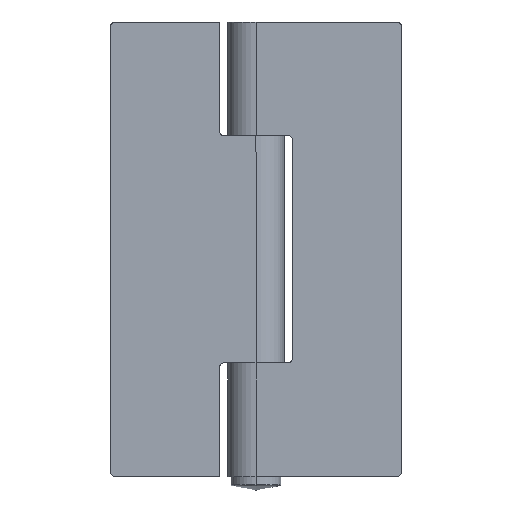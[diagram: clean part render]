
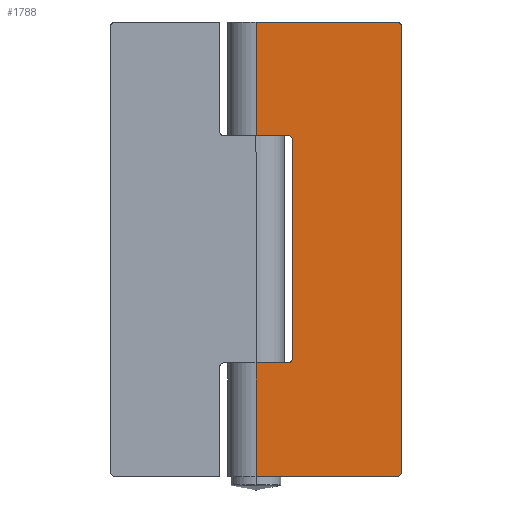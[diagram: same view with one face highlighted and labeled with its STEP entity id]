
A CAD part, left-side view. The second image highlights one B-rep face of the part: STEP entity #1788.
In plain terms, the highlighted planar face has unit normal (-1, 0, 0).
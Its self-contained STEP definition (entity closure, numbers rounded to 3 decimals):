
#51 = DIRECTION ( 'NONE',  ( -1., 0., 0. ) ) ;
#60 = EDGE_CURVE ( 'NONE', #1694, #1356, #1512, .T. ) ;
#65 = VECTOR ( 'NONE', #594, 1000. ) ;
#78 = DIRECTION ( 'NONE',  ( 0., -1., 0. ) ) ;
#81 = CARTESIAN_POINT ( 'NONE',  ( -18.563, -5.479, 25.5 ) ) ;
#85 = EDGE_CURVE ( 'NONE', #2138, #135, #1182, .T. ) ;
#119 = DIRECTION ( 'NONE',  ( 0., 1., 0. ) ) ;
#135 = VERTEX_POINT ( 'NONE', #215 ) ;
#162 = DIRECTION ( 'NONE',  ( 1., 0., 0. ) ) ;
#193 = CARTESIAN_POINT ( 'NONE',  ( -18.563, 10.021, 62.5 ) ) ;
#215 = CARTESIAN_POINT ( 'NONE',  ( -18.563, -5.979, 25.5 ) ) ;
#222 = DIRECTION ( 'NONE',  ( 0., 1., 0. ) ) ;
#237 = CARTESIAN_POINT ( 'NONE',  ( -18.563, -5.479, 25. ) ) ;
#258 = DIRECTION ( 'NONE',  ( 0., 1., 0. ) ) ;
#266 = CARTESIAN_POINT ( 'NONE',  ( -18.563, 10.021, 25. ) ) ;
#299 = ORIENTED_EDGE ( 'NONE', *, *, #2264, .T. ) ;
#307 = DIRECTION ( 'NONE',  ( 1., 0., 0. ) ) ;
#388 = LINE ( 'NONE', #2198, #1769 ) ;
#408 = ORIENTED_EDGE ( 'NONE', *, *, #923, .T. ) ;
#422 = ORIENTED_EDGE ( 'NONE', *, *, #953, .F. ) ;
#440 = CARTESIAN_POINT ( 'NONE',  ( -18.563, 6.521, 62. ) ) ;
#442 = EDGE_CURVE ( 'NONE', #493, #2233, #388, .T. ) ;
#482 = VERTEX_POINT ( 'NONE', #1852 ) ;
#493 = VERTEX_POINT ( 'NONE', #1002 ) ;
#495 = CIRCLE ( 'NONE', #2065, 0.5 ) ;
#497 = VECTOR ( 'NONE', #1313, 1000. ) ;
#576 = EDGE_CURVE ( 'NONE', #2138, #1105, #495, .T. ) ;
#594 = DIRECTION ( 'NONE',  ( 0., 0., -1. ) ) ;
#595 = CARTESIAN_POINT ( 'NONE',  ( -18.563, -5.979, 75. ) ) ;
#600 = LINE ( 'NONE', #1877, #1658 ) ;
#601 = CARTESIAN_POINT ( 'NONE',  ( -18.563, 6.021, 38. ) ) ;
#640 = CARTESIAN_POINT ( 'NONE',  ( -18.563, 10.021, 25. ) ) ;
#683 = CIRCLE ( 'NONE', #1799, 0.5 ) ;
#686 = VECTOR ( 'NONE', #1045, 1000. ) ;
#691 = EDGE_CURVE ( 'NONE', #1694, #482, #683, .T. ) ;
#746 = ORIENTED_EDGE ( 'NONE', *, *, #691, .T. ) ;
#770 = VERTEX_POINT ( 'NONE', #1048 ) ;
#778 = CARTESIAN_POINT ( 'NONE',  ( -18.563, 6.021, 62. ) ) ;
#813 = DIRECTION ( 'NONE',  ( 0., -1., 0. ) ) ;
#832 = DIRECTION ( 'NONE',  ( 0., 1., 0. ) ) ;
#895 = ORIENTED_EDGE ( 'NONE', *, *, #85, .F. ) ;
#923 = EDGE_CURVE ( 'NONE', #1527, #2266, #1830, .T. ) ;
#943 = FACE_OUTER_BOUND ( 'NONE', #1114, .T. ) ;
#953 = EDGE_CURVE ( 'NONE', #770, #482, #600, .T. ) ;
#1002 = CARTESIAN_POINT ( 'NONE',  ( -18.563, 6.521, 62.5 ) ) ;
#1019 = DIRECTION ( 'NONE',  ( -1., 0., 0. ) ) ;
#1045 = DIRECTION ( 'NONE',  ( 0., 0., -1. ) ) ;
#1048 = CARTESIAN_POINT ( 'NONE',  ( -18.563, 10.021, 37.5 ) ) ;
#1105 = VERTEX_POINT ( 'NONE', #1638 ) ;
#1114 = EDGE_LOOP ( 'NONE', ( #408, #1292, #895, #1703, #1914, #299, #1652, #1634, #2052, #746, #422, #1187 ) ) ;
#1168 = CARTESIAN_POINT ( 'NONE',  ( -18.563, 6.021, 37.5 ) ) ;
#1182 = LINE ( 'NONE', #595, #686 ) ;
#1185 = CARTESIAN_POINT ( 'NONE',  ( -18.563, 6.521, 38. ) ) ;
#1187 = ORIENTED_EDGE ( 'NONE', *, *, #1282, .T. ) ;
#1244 = LINE ( 'NONE', #1441, #1713 ) ;
#1282 = EDGE_CURVE ( 'NONE', #770, #1527, #2060, .T. ) ;
#1292 = ORIENTED_EDGE ( 'NONE', *, *, #1484, .T. ) ;
#1313 = DIRECTION ( 'NONE',  ( 0., 0., 1. ) ) ;
#1323 = CARTESIAN_POINT ( 'NONE',  ( -18.563, -5.979, 74.5 ) ) ;
#1329 = EDGE_CURVE ( 'NONE', #1388, #1105, #1244, .T. ) ;
#1347 = DIRECTION ( 'NONE',  ( 0., 1., 0. ) ) ;
#1349 = VECTOR ( 'NONE', #1590, 1000. ) ;
#1356 = VERTEX_POINT ( 'NONE', #778 ) ;
#1388 = VERTEX_POINT ( 'NONE', #1428 ) ;
#1428 = CARTESIAN_POINT ( 'NONE',  ( -18.563, 10.021, 75. ) ) ;
#1441 = CARTESIAN_POINT ( 'NONE',  ( -18.563, 10.021, 75. ) ) ;
#1466 = CARTESIAN_POINT ( 'NONE',  ( -18.563, -5.479, 74.5 ) ) ;
#1484 = EDGE_CURVE ( 'NONE', #2266, #135, #1749, .T. ) ;
#1512 = LINE ( 'NONE', #1168, #497 ) ;
#1527 = VERTEX_POINT ( 'NONE', #640 ) ;
#1549 = DIRECTION ( 'NONE',  ( 1., 0., 0. ) ) ;
#1590 = DIRECTION ( 'NONE',  ( 0., 0., -1. ) ) ;
#1600 = DIRECTION ( 'NONE',  ( 0., -1., 0. ) ) ;
#1634 = ORIENTED_EDGE ( 'NONE', *, *, #1868, .T. ) ;
#1638 = CARTESIAN_POINT ( 'NONE',  ( -18.563, -5.479, 75. ) ) ;
#1652 = ORIENTED_EDGE ( 'NONE', *, *, #442, .F. ) ;
#1658 = VECTOR ( 'NONE', #78, 1000. ) ;
#1679 = AXIS2_PLACEMENT_3D ( 'NONE', #81, #1019, #119 ) ;
#1694 = VERTEX_POINT ( 'NONE', #601 ) ;
#1703 = ORIENTED_EDGE ( 'NONE', *, *, #576, .T. ) ;
#1713 = VECTOR ( 'NONE', #1600, 1000. ) ;
#1749 = CIRCLE ( 'NONE', #1679, 0.5 ) ;
#1762 = CARTESIAN_POINT ( 'NONE',  ( -18.563, 10.021, 75. ) ) ;
#1769 = VECTOR ( 'NONE', #258, 1000. ) ;
#1788 = ADVANCED_FACE ( 'NONE', ( #943 ), #2019, .F. ) ;
#1799 = AXIS2_PLACEMENT_3D ( 'NONE', #1185, #307, #832 ) ;
#1830 = LINE ( 'NONE', #266, #1872 ) ;
#1852 = CARTESIAN_POINT ( 'NONE',  ( -18.563, 6.521, 37.5 ) ) ;
#1868 = EDGE_CURVE ( 'NONE', #493, #1356, #2047, .T. ) ;
#1872 = VECTOR ( 'NONE', #813, 1000. ) ;
#1877 = CARTESIAN_POINT ( 'NONE',  ( -18.563, 6.021, 37.5 ) ) ;
#1912 = DIRECTION ( 'NONE',  ( 0., 1., 0. ) ) ;
#1914 = ORIENTED_EDGE ( 'NONE', *, *, #1329, .F. ) ;
#2019 = PLANE ( 'NONE',  #2261 ) ;
#2047 = CIRCLE ( 'NONE', #2187, 0.5 ) ;
#2052 = ORIENTED_EDGE ( 'NONE', *, *, #60, .F. ) ;
#2060 = LINE ( 'NONE', #1762, #1349 ) ;
#2065 = AXIS2_PLACEMENT_3D ( 'NONE', #1466, #51, #222 ) ;
#2138 = VERTEX_POINT ( 'NONE', #1323 ) ;
#2177 = LINE ( 'NONE', #2218, #65 ) ;
#2187 = AXIS2_PLACEMENT_3D ( 'NONE', #440, #162, #1912 ) ;
#2198 = CARTESIAN_POINT ( 'NONE',  ( -18.563, 6.021, 62.5 ) ) ;
#2218 = CARTESIAN_POINT ( 'NONE',  ( -18.563, 10.021, 75. ) ) ;
#2226 = CARTESIAN_POINT ( 'NONE',  ( -18.563, 10.021, 75. ) ) ;
#2233 = VERTEX_POINT ( 'NONE', #193 ) ;
#2261 = AXIS2_PLACEMENT_3D ( 'NONE', #2226, #1549, #1347 ) ;
#2264 = EDGE_CURVE ( 'NONE', #1388, #2233, #2177, .T. ) ;
#2266 = VERTEX_POINT ( 'NONE', #237 ) ;
